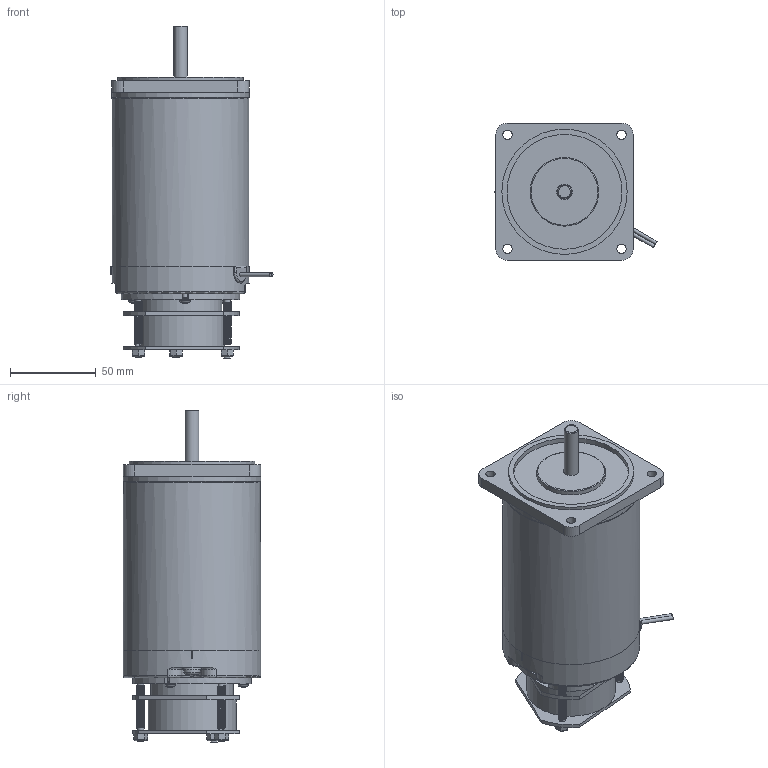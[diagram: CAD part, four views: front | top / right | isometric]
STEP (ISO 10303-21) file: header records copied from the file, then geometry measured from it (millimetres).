
FILE_DESCRIPTION((''),'2;1');
FILE_NAME('D:\yang\Yang cw\SPG 업무\2. DC MOTOR\7. DC MOTOR 브로슈어\ELECTRIC-BRAKE ASSEMBLY DC MOTOR\3D\STEP\S8D40-24A(OB85) STRAIGHT.stp','2015-03-10T13:49:50',('ycw1227'),(''),'Autodesk Inventor 2013','Autodesk Inventor 2013','');
FILE_SCHEMA(('AUTOMOTIVE_DESIGN { 1 0 10303 214 1 1 1 1 }'));
Length unit declared in the file: millimetre
Products named in the file (1): 부품19
Bounding box: 94.43 x 80 x 193.5 mm (x, y, z)
Volume: 698620.2 mm3; surface area: 66058.1 mm2
Topology: 1 solids, 6 shells, 443 faces, 1140 edges, 708 vertices
Faces by surface type: plane 175, cylinder 147, cone 62, torus 42, bspline 12, sphere 5
Full cylindrical faces by diameter (mm): 2.2 x2, 2.459 x3, 2.693 x3, 3 x3, 3.8 x21, 4.567 x2, 5 x2, 5.4 x2, 5.5 x4, 5.6 x2, 8 x3, 9 x1, 10 x1, 11 x2, 26 x2, 40 x1, 48 x1, 51.5 x1, 67 x1, 73 x1, 80 x3
Entity records: 30732 total; most frequent: CARTESIAN_POINT 21039, DIRECTION 1915, ORIENTED_EDGE 1846, EDGE_CURVE 923, AXIS2_PLACEMENT_3D 781, VERTEX_POINT 608, EDGE_LOOP 544, FACE_OUTER_BOUND 418
